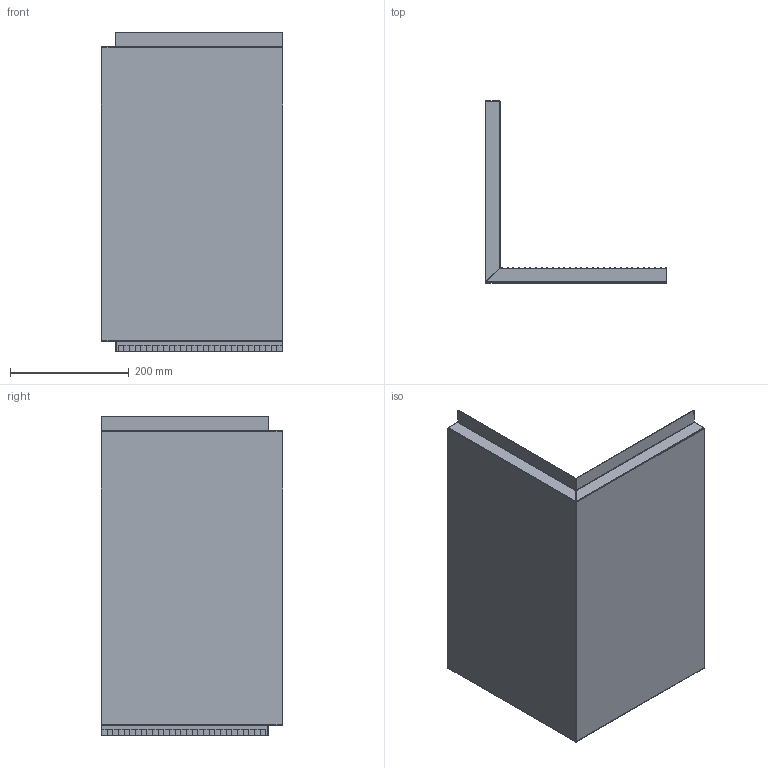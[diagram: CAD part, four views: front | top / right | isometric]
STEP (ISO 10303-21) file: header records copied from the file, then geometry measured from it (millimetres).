
FILE_DESCRIPTION (( 'STEP AP203' ), '1' );
FILE_NAME ('SPCG24.20.STEP', '2020-11-07T15:58:35', ( '' ), ( '' ), 'SwSTEP 2.0', 'SolidWorks 2018', '' );
FILE_SCHEMA (( 'CONFIG_CONTROL_DESIGN' ));
Length unit declared in the file: inch
Products named in the file (2): SPCG24.20
Bounding box: 305.8 x 305.8 x 537.16 mm (x, y, z)
Volume: 256379.6 mm3; surface area: 778467.2 mm2
Topology: 1 solids, 1 shells, 240 faces, 966 edges, 716 vertices
Faces by surface type: bspline 124, cylinder 58, plane 58
Entity records: 20073 total; most frequent: CARTESIAN_POINT 11940, ORIENTED_EDGE 1924, DIRECTION 1508, EDGE_CURVE 962, VERTEX_POINT 716, AXIS2_PLACEMENT_3D 528, LINE 452, VECTOR 452
